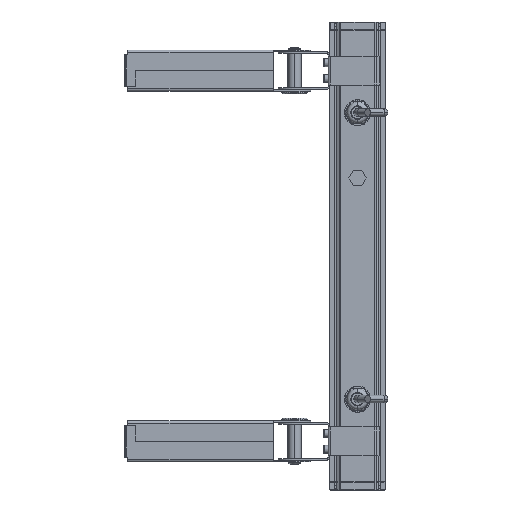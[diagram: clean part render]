
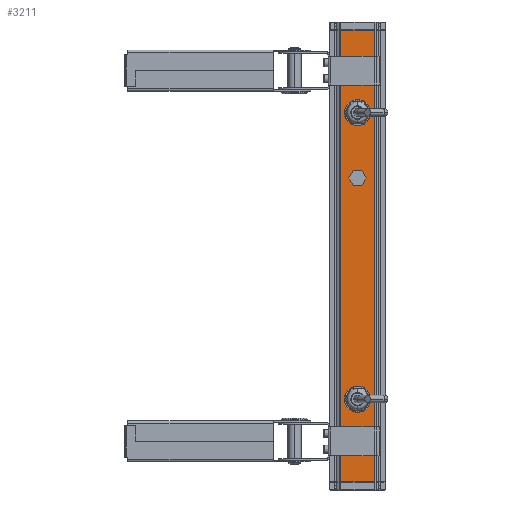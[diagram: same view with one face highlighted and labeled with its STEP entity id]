
A CAD part, top view. The second image highlights one B-rep face of the part: STEP entity #3211.
In plain terms, the highlighted planar face has unit normal (0, 0, 1).
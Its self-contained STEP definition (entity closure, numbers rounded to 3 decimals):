
#321=DIRECTION('',(-1.,0.,0.));
#322=VECTOR('',#321,36.);
#323=CARTESIAN_POINT('',(18.,258.2,17.25));
#324=LINE('',#323,#322);
#994=DIRECTION('',(0.,-1.,0.));
#995=VECTOR('',#994,483.6);
#996=CARTESIAN_POINT('',(-18.,741.8,17.25));
#997=LINE('',#996,#995);
#998=DIRECTION('',(-1.,0.,0.));
#999=VECTOR('',#998,36.);
#1000=CARTESIAN_POINT('',(18.,741.8,17.25));
#1001=LINE('',#1000,#999);
#1002=DIRECTION('',(0.,1.,0.));
#1003=VECTOR('',#1002,483.6);
#1004=CARTESIAN_POINT('',(18.,258.2,17.25));
#1005=LINE('',#1004,#1003);
#1006=CARTESIAN_POINT('',(0.,583.5,17.25));
#1007=DIRECTION('',(0.,0.,-1.));
#1008=DIRECTION('',(-1.,0.,0.));
#1009=AXIS2_PLACEMENT_3D('',#1006,#1007,#1008);
#1011=CARTESIAN_POINT('',(0.,583.5,17.25));
#1012=DIRECTION('',(0.,0.,-1.));
#1013=DIRECTION('',(1.,0.,0.));
#1014=AXIS2_PLACEMENT_3D('',#1011,#1012,#1013);
#1016=CARTESIAN_POINT('',(0.,653.4,17.25));
#1017=DIRECTION('',(0.,0.,1.));
#1018=DIRECTION('',(1.,0.,0.));
#1019=AXIS2_PLACEMENT_3D('',#1016,#1017,#1018);
#1021=CARTESIAN_POINT('',(0.,653.4,17.25));
#1022=DIRECTION('',(0.,0.,1.));
#1023=DIRECTION('',(-1.,0.,0.));
#1024=AXIS2_PLACEMENT_3D('',#1021,#1022,#1023);
#1026=CARTESIAN_POINT('',(0.,346.6,17.25));
#1027=DIRECTION('',(0.,0.,1.));
#1028=DIRECTION('',(1.,0.,0.));
#1029=AXIS2_PLACEMENT_3D('',#1026,#1027,#1028);
#1031=CARTESIAN_POINT('',(0.,346.6,17.25));
#1032=DIRECTION('',(0.,0.,1.));
#1033=DIRECTION('',(-1.,0.,0.));
#1034=AXIS2_PLACEMENT_3D('',#1031,#1032,#1033);
#1465=CARTESIAN_POINT('',(-18.,741.8,17.25));
#1467=VERTEX_POINT('',#1465);
#1499=CARTESIAN_POINT('',(18.,741.8,17.25));
#1500=VERTEX_POINT('',#1499);
#1617=CARTESIAN_POINT('',(-18.,258.2,17.25));
#1619=VERTEX_POINT('',#1617);
#1669=CARTESIAN_POINT('',(18.,258.2,17.25));
#1670=VERTEX_POINT('',#1669);
#1801=CARTESIAN_POINT('',(-5.25,583.5,17.25));
#1802=CARTESIAN_POINT('',(5.25,583.5,17.25));
#1803=VERTEX_POINT('',#1801);
#1804=VERTEX_POINT('',#1802);
#1873=CARTESIAN_POINT('',(14.,653.4,17.25));
#1874=CARTESIAN_POINT('',(-14.,653.4,17.25));
#1875=VERTEX_POINT('',#1873);
#1876=VERTEX_POINT('',#1874);
#1877=CARTESIAN_POINT('',(14.,346.6,17.25));
#1878=CARTESIAN_POINT('',(-14.,346.6,17.25));
#1879=VERTEX_POINT('',#1877);
#1880=VERTEX_POINT('',#1878);
#3181=CARTESIAN_POINT('',(18.,246.,17.25));
#3182=DIRECTION('',(0.,0.,-1.));
#3183=DIRECTION('',(-1.,0.,0.));
#3184=AXIS2_PLACEMENT_3D('',#3181,#3182,#3183);
#3185=PLANE('',#3184);
#3186=ORIENTED_EDGE('',*,*,#2314,.T.);
#3188=ORIENTED_EDGE('',*,*,#3187,.F.);
#3189=ORIENTED_EDGE('',*,*,#2025,.F.);
#3191=ORIENTED_EDGE('',*,*,#3190,.F.);
#3192=EDGE_LOOP('',(#3186,#3188,#3189,#3191));
#3193=FACE_OUTER_BOUND('',#3192,.F.);
#3195=ORIENTED_EDGE('',*,*,#3194,.F.);
#3197=ORIENTED_EDGE('',*,*,#3196,.F.);
#3198=EDGE_LOOP('',(#3195,#3197));
#3199=FACE_BOUND('',#3198,.F.);
#3200=ORIENTED_EDGE('',*,*,#3171,.T.);
#3202=ORIENTED_EDGE('',*,*,#3201,.T.);
#3203=EDGE_LOOP('',(#3200,#3202));
#3204=FACE_BOUND('',#3203,.F.);
#3206=ORIENTED_EDGE('',*,*,#3205,.T.);
#3208=ORIENTED_EDGE('',*,*,#3207,.T.);
#3209=EDGE_LOOP('',(#3206,#3208));
#3210=FACE_BOUND('',#3209,.F.);
#3211=ADVANCED_FACE('',(#3193,#3199,#3204,#3210),#3185,.F.);
#1010=CIRCLE('',#1009,5.25);
#1015=CIRCLE('',#1014,5.25);
#1020=CIRCLE('',#1019,14.);
#1025=CIRCLE('',#1024,14.);
#1030=CIRCLE('',#1029,14.);
#1035=CIRCLE('',#1034,14.);
#2025=EDGE_CURVE('',#1500,#1467,#1001,.T.);
#2314=EDGE_CURVE('',#1670,#1619,#324,.T.);
#3171=EDGE_CURVE('',#1875,#1876,#1020,.T.);
#3187=EDGE_CURVE('',#1467,#1619,#997,.T.);
#3190=EDGE_CURVE('',#1670,#1500,#1005,.T.);
#3194=EDGE_CURVE('',#1803,#1804,#1010,.T.);
#3196=EDGE_CURVE('',#1804,#1803,#1015,.T.);
#3201=EDGE_CURVE('',#1876,#1875,#1025,.T.);
#3205=EDGE_CURVE('',#1879,#1880,#1030,.T.);
#3207=EDGE_CURVE('',#1880,#1879,#1035,.T.);
